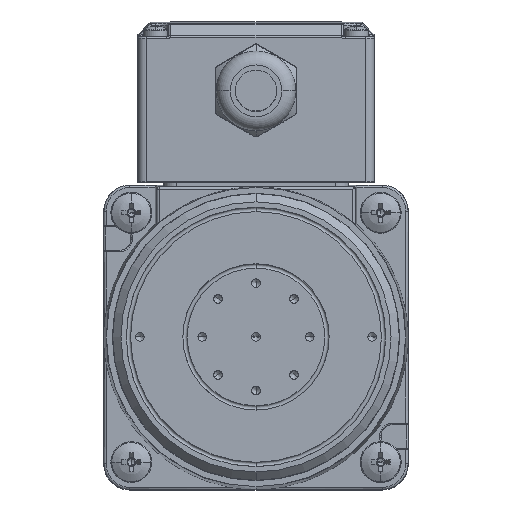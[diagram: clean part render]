
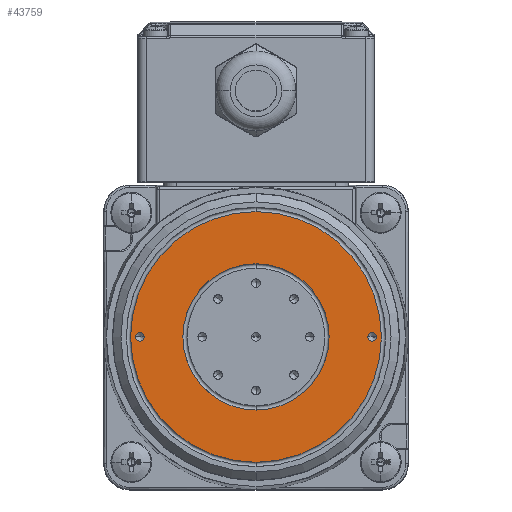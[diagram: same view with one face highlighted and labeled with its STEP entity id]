
A CAD part, top view. The second image highlights one B-rep face of the part: STEP entity #43759.
In plain terms, the highlighted planar face has unit normal (0, 0, 1).
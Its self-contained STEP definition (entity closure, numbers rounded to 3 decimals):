
#241 = FACE_BOUND ( 'NONE', #24402, .T. ) ;
#735 = VERTEX_POINT ( 'NONE', #45057 ) ;
#803 = DIRECTION ( 'NONE',  ( 0., 0., 1. ) ) ;
#1136 = DIRECTION ( 'NONE',  ( -1., 0., 0. ) ) ;
#1398 = CARTESIAN_POINT ( 'NONE',  ( 0., 0., 79.75 ) ) ;
#1449 = DIRECTION ( 'NONE',  ( 0., 0., 1. ) ) ;
#2248 = AXIS2_PLACEMENT_3D ( 'NONE', #15045, #29913, #44735 ) ;
#2567 = DIRECTION ( 'NONE',  ( 0., 1., 0. ) ) ;
#3526 = CIRCLE ( 'NONE', #22171, 29.15 ) ;
#3571 = DIRECTION ( 'NONE',  ( 0., 0., 1. ) ) ;
#3824 = CARTESIAN_POINT ( 'NONE',  ( 0., 0., 79.75 ) ) ;
#4010 = DIRECTION ( 'NONE',  ( 0., 0., 1. ) ) ;
#5385 = CARTESIAN_POINT ( 'NONE',  ( -28., 0., 79.75 ) ) ;
#5619 = EDGE_CURVE ( 'NONE', #18355, #39154, #8961, .T. ) ;
#7195 = DIRECTION ( 'NONE',  ( 0., -1., 0. ) ) ;
#8442 = AXIS2_PLACEMENT_3D ( 'NONE', #1398, #17144, #31286 ) ;
#8961 = CIRCLE ( 'NONE', #15185, 17.01 ) ;
#11607 = ORIENTED_EDGE ( 'NONE', *, *, #33973, .F. ) ;
#12056 = CARTESIAN_POINT ( 'NONE',  ( 27., 0., 79.75 ) ) ;
#12942 = CIRCLE ( 'NONE', #46346, 1. ) ;
#14460 = ORIENTED_EDGE ( 'NONE', *, *, #17061, .F. ) ;
#14666 = CIRCLE ( 'NONE', #22454, 1. ) ;
#14820 = VERTEX_POINT ( 'NONE', #41971 ) ;
#15045 = CARTESIAN_POINT ( 'NONE',  ( 0., 0., 79.75 ) ) ;
#15185 = AXIS2_PLACEMENT_3D ( 'NONE', #3824, #3571, #37333 ) ;
#15767 = FACE_OUTER_BOUND ( 'NONE', #37115, .T. ) ;
#16271 = CARTESIAN_POINT ( 'NONE',  ( 27., 0., 79.75 ) ) ;
#16859 = ORIENTED_EDGE ( 'NONE', *, *, #46717, .F. ) ;
#17036 = EDGE_CURVE ( 'NONE', #39154, #18355, #17773, .T. ) ;
#17061 = EDGE_CURVE ( 'NONE', #34671, #41026, #14666, .T. ) ;
#17144 = DIRECTION ( 'NONE',  ( 0., 0., 1. ) ) ;
#17689 = CARTESIAN_POINT ( 'NONE',  ( 0., -29.15, 79.75 ) ) ;
#17773 = CIRCLE ( 'NONE', #8442, 17.01 ) ;
#18124 = AXIS2_PLACEMENT_3D ( 'NONE', #29990, #803, #33861 ) ;
#18355 = VERTEX_POINT ( 'NONE', #36480 ) ;
#19373 = DIRECTION ( 'NONE',  ( 0., 0., 1. ) ) ;
#20136 = CIRCLE ( 'NONE', #42628, 29.15 ) ;
#21031 = CIRCLE ( 'NONE', #45989, 1. ) ;
#21936 = CARTESIAN_POINT ( 'NONE',  ( 28., 0., 79.75 ) ) ;
#22171 = AXIS2_PLACEMENT_3D ( 'NONE', #28624, #24964, #2567 ) ;
#22454 = AXIS2_PLACEMENT_3D ( 'NONE', #37303, #4010, #30297 ) ;
#22726 = ORIENTED_EDGE ( 'NONE', *, *, #25314, .F. ) ;
#22776 = ORIENTED_EDGE ( 'NONE', *, *, #5619, .F. ) ;
#24402 = EDGE_LOOP ( 'NONE', ( #31962, #22776 ) ) ;
#24964 = DIRECTION ( 'NONE',  ( 0., 0., -1. ) ) ;
#25314 = EDGE_CURVE ( 'NONE', #735, #41676, #3526, .T. ) ;
#26996 = FACE_BOUND ( 'NONE', #28104, .T. ) ;
#28104 = EDGE_LOOP ( 'NONE', ( #11607, #45901 ) ) ;
#28624 = CARTESIAN_POINT ( 'NONE',  ( 0., 0., 79.75 ) ) ;
#29913 = DIRECTION ( 'NONE',  ( 0., 0., -1. ) ) ;
#29990 = CARTESIAN_POINT ( 'NONE',  ( -27., 0., 79.75 ) ) ;
#30297 = DIRECTION ( 'NONE',  ( 1., 0., 0. ) ) ;
#30486 = DIRECTION ( 'NONE',  ( 0., 0., -1. ) ) ;
#30735 = CARTESIAN_POINT ( 'NONE',  ( 0., 17.01, 79.75 ) ) ;
#30999 = EDGE_LOOP ( 'NONE', ( #14460, #16859 ) ) ;
#31286 = DIRECTION ( 'NONE',  ( 0., 1., 0. ) ) ;
#31962 = ORIENTED_EDGE ( 'NONE', *, *, #17036, .F. ) ;
#31969 = EDGE_CURVE ( 'NONE', #41676, #735, #20136, .T. ) ;
#33682 = CIRCLE ( 'NONE', #18124, 1. ) ;
#33861 = DIRECTION ( 'NONE',  ( -1., 0., 0. ) ) ;
#33973 = EDGE_CURVE ( 'NONE', #39465, #14820, #21031, .T. ) ;
#34671 = VERTEX_POINT ( 'NONE', #42546 ) ;
#36480 = CARTESIAN_POINT ( 'NONE',  ( 0., -17.01, 79.75 ) ) ;
#37115 = EDGE_LOOP ( 'NONE', ( #22726, #47477 ) ) ;
#37303 = CARTESIAN_POINT ( 'NONE',  ( -27., 0., 79.75 ) ) ;
#37333 = DIRECTION ( 'NONE',  ( 0., -1., 0. ) ) ;
#37999 = CARTESIAN_POINT ( 'NONE',  ( 0., 0., 79.75 ) ) ;
#38635 = DIRECTION ( 'NONE',  ( 1., 0., 0. ) ) ;
#39154 = VERTEX_POINT ( 'NONE', #30735 ) ;
#39465 = VERTEX_POINT ( 'NONE', #21936 ) ;
#40584 = EDGE_CURVE ( 'NONE', #14820, #39465, #12942, .T. ) ;
#41026 = VERTEX_POINT ( 'NONE', #5385 ) ;
#41676 = VERTEX_POINT ( 'NONE', #17689 ) ;
#41808 = PLANE ( 'NONE',  #2248 ) ;
#41971 = CARTESIAN_POINT ( 'NONE',  ( 26., 0., 79.75 ) ) ;
#42546 = CARTESIAN_POINT ( 'NONE',  ( -26., 0., 79.75 ) ) ;
#42628 = AXIS2_PLACEMENT_3D ( 'NONE', #37999, #30486, #7195 ) ;
#43759 = ADVANCED_FACE ( 'NONE', ( #15767, #241, #45448, #26996 ), #41808, .F. ) ;
#44735 = DIRECTION ( 'NONE',  ( 0., -1., 0. ) ) ;
#45057 = CARTESIAN_POINT ( 'NONE',  ( 0., 29.15, 79.75 ) ) ;
#45448 = FACE_BOUND ( 'NONE', #30999, .T. ) ;
#45901 = ORIENTED_EDGE ( 'NONE', *, *, #40584, .F. ) ;
#45989 = AXIS2_PLACEMENT_3D ( 'NONE', #16271, #1449, #38635 ) ;
#46346 = AXIS2_PLACEMENT_3D ( 'NONE', #12056, #19373, #1136 ) ;
#46717 = EDGE_CURVE ( 'NONE', #41026, #34671, #33682, .T. ) ;
#47477 = ORIENTED_EDGE ( 'NONE', *, *, #31969, .F. ) ;
